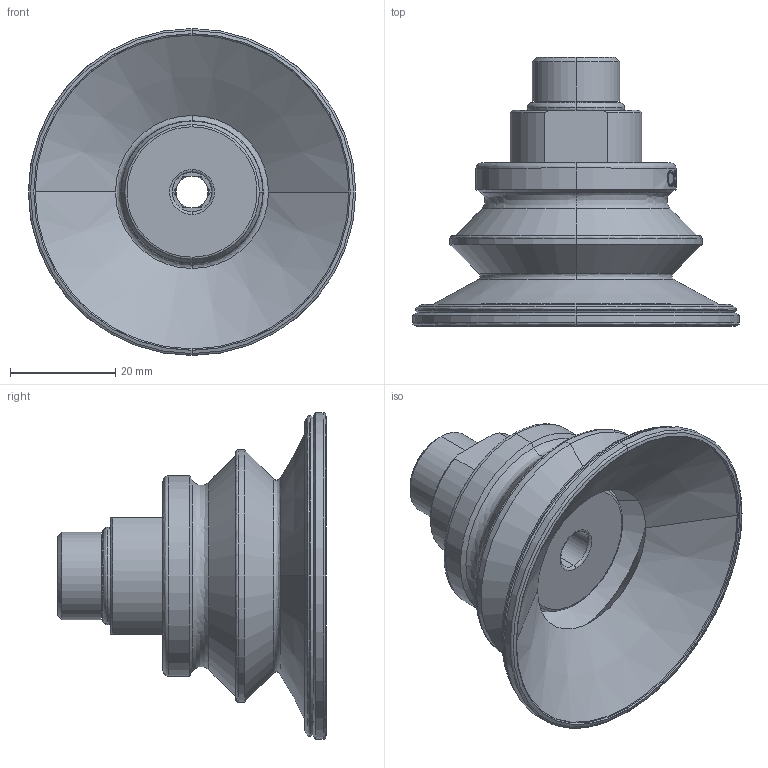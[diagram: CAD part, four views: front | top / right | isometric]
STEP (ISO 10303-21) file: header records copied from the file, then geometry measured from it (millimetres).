
FILE_DESCRIPTION (( 'STEP AP214' ), '1' );
FILE_NAME ('VBC 60.STEP', '2019-11-26T03:50:41', ( '微软用户' ), ( '微软中国' ), 'SwSTEP 2.0', 'SolidWorks 2016', '' );
FILE_SCHEMA (( 'AUTOMOTIVE_DESIGN' ));
Length unit declared in the file: millimetre
Products named in the file (1): VBC 60
Bounding box: 62 x 51 x 62 mm (x, y, z)
Volume: 29472.1 mm3; surface area: 17733.9 mm2
Topology: 3 solids, 3 shells, 178 faces, 424 edges, 266 vertices
Faces by surface type: bspline 63, plane 41, cylinder 38, cone 36
Entity records: 16922 total; most frequent: CARTESIAN_POINT 10984, ORIENTED_EDGE 848, DIRECTION 776, EDGE_CURVE 424, AXIS2_PLACEMENT_3D 310, VERTEX_POINT 266, EDGE_LOOP 198, CIRCLE 194
